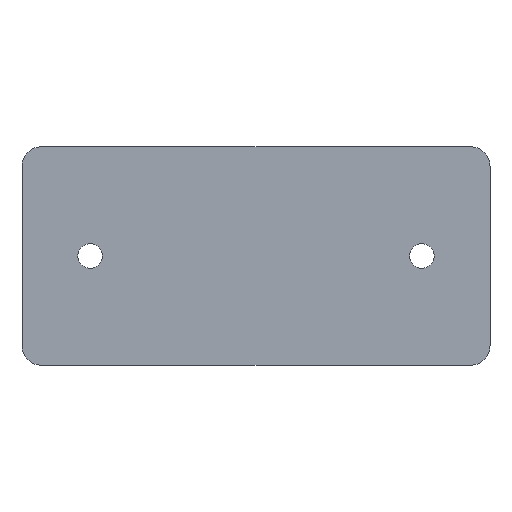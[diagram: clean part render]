
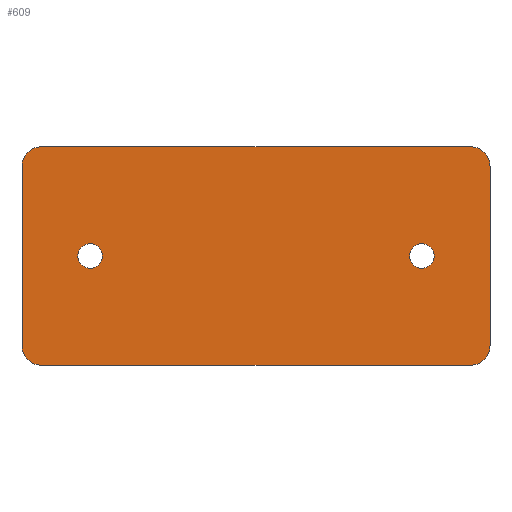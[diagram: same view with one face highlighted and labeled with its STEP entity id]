
A CAD part, left-side view. The second image highlights one B-rep face of the part: STEP entity #609.
In plain terms, the highlighted planar face has unit normal (-1, 0, 0).
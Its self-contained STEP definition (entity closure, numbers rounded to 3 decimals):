
#15=FACE_BOUND('',#76,.T.);
#16=FACE_BOUND('',#77,.T.);
#20=PLANE('',#662);
#42=FACE_OUTER_BOUND('',#75,.T.);
#75=EDGE_LOOP('',(#424,#425,#426,#427,#428,#429,#430,#431));
#76=EDGE_LOOP('',(#432));
#77=EDGE_LOOP('',(#433));
#114=LINE('',#924,#176);
#115=LINE('',#928,#177);
#116=LINE('',#932,#178);
#117=LINE('',#935,#179);
#176=VECTOR('',#740,10.);
#177=VECTOR('',#743,10.);
#178=VECTOR('',#746,10.);
#179=VECTOR('',#749,10.);
#235=CIRCLE('',#655,10.);
#237=CIRCLE('',#658,10.);
#239=CIRCLE('',#661,16.);
#240=CIRCLE('',#663,16.);
#241=CIRCLE('',#664,16.);
#242=CIRCLE('',#665,16.);
#263=VERTEX_POINT('',#904);
#265=VERTEX_POINT('',#910);
#268=VERTEX_POINT('',#917);
#269=VERTEX_POINT('',#919);
#270=VERTEX_POINT('',#923);
#271=VERTEX_POINT('',#925);
#272=VERTEX_POINT('',#927);
#273=VERTEX_POINT('',#929);
#274=VERTEX_POINT('',#931);
#275=VERTEX_POINT('',#933);
#324=EDGE_CURVE('',#263,#263,#235,.T.);
#327=EDGE_CURVE('',#265,#265,#237,.T.);
#330=EDGE_CURVE('',#268,#269,#239,.T.);
#332=EDGE_CURVE('',#268,#270,#114,.T.);
#333=EDGE_CURVE('',#271,#270,#240,.T.);
#334=EDGE_CURVE('',#271,#272,#115,.T.);
#335=EDGE_CURVE('',#273,#272,#241,.T.);
#336=EDGE_CURVE('',#273,#274,#116,.T.);
#337=EDGE_CURVE('',#275,#274,#242,.T.);
#338=EDGE_CURVE('',#275,#269,#117,.T.);
#424=ORIENTED_EDGE('',*,*,#330,.F.);
#425=ORIENTED_EDGE('',*,*,#332,.T.);
#426=ORIENTED_EDGE('',*,*,#333,.F.);
#427=ORIENTED_EDGE('',*,*,#334,.T.);
#428=ORIENTED_EDGE('',*,*,#335,.F.);
#429=ORIENTED_EDGE('',*,*,#336,.T.);
#430=ORIENTED_EDGE('',*,*,#337,.F.);
#431=ORIENTED_EDGE('',*,*,#338,.T.);
#432=ORIENTED_EDGE('',*,*,#324,.T.);
#433=ORIENTED_EDGE('',*,*,#327,.T.);
#609=ADVANCED_FACE('',(#42,#15,#16),#20,.T.);
#655=AXIS2_PLACEMENT_3D('',#906,#721,#722);
#658=AXIS2_PLACEMENT_3D('',#912,#728,#729);
#661=AXIS2_PLACEMENT_3D('',#920,#735,#736);
#662=AXIS2_PLACEMENT_3D('',#922,#738,#739);
#663=AXIS2_PLACEMENT_3D('',#926,#741,#742);
#664=AXIS2_PLACEMENT_3D('',#930,#744,#745);
#665=AXIS2_PLACEMENT_3D('',#934,#747,#748);
#721=DIRECTION('center_axis',(1.,0.,0.));
#722=DIRECTION('ref_axis',(0.,1.,0.));
#728=DIRECTION('center_axis',(1.,0.,0.));
#729=DIRECTION('ref_axis',(0.,1.,0.));
#735=DIRECTION('center_axis',(1.,0.,0.));
#736=DIRECTION('ref_axis',(0.,0.707,-0.707));
#738=DIRECTION('center_axis',(-1.,0.,0.));
#739=DIRECTION('ref_axis',(0.,0.,1.));
#740=DIRECTION('',(0.,-1.,0.));
#741=DIRECTION('center_axis',(1.,0.,0.));
#742=DIRECTION('ref_axis',(0.,-0.707,-0.707));
#743=DIRECTION('',(0.,0.,1.));
#744=DIRECTION('center_axis',(1.,0.,0.));
#745=DIRECTION('ref_axis',(0.,-0.707,0.707));
#746=DIRECTION('',(0.,1.,0.));
#747=DIRECTION('center_axis',(1.,0.,0.));
#748=DIRECTION('ref_axis',(0.,0.707,0.707));
#749=DIRECTION('',(0.,0.,-1.));
#904=CARTESIAN_POINT('',(-31.75,285.,61.5));
#906=CARTESIAN_POINT('Origin',(-31.75,295.,61.5));
#910=CARTESIAN_POINT('',(-31.75,15.,61.5));
#912=CARTESIAN_POINT('Origin',(-31.75,25.,61.5));
#917=CARTESIAN_POINT('',(-31.75,334.5,-27.4));
#919=CARTESIAN_POINT('',(-31.75,350.5,-11.4));
#920=CARTESIAN_POINT('Origin',(-31.75,334.5,-11.4));
#922=CARTESIAN_POINT('Origin',(-31.75,160.,61.5));
#923=CARTESIAN_POINT('',(-31.75,-14.5,-27.4));
#924=CARTESIAN_POINT('',(-31.75,-30.5,-27.4));
#925=CARTESIAN_POINT('',(-31.75,-30.5,-11.4));
#926=CARTESIAN_POINT('Origin',(-31.75,-14.5,-11.4));
#927=CARTESIAN_POINT('',(-31.75,-30.5,134.4));
#928=CARTESIAN_POINT('',(-31.75,-30.5,150.4));
#929=CARTESIAN_POINT('',(-31.75,-14.5,150.4));
#930=CARTESIAN_POINT('Origin',(-31.75,-14.5,134.4));
#931=CARTESIAN_POINT('',(-31.75,334.5,150.4));
#932=CARTESIAN_POINT('',(-31.75,350.5,150.4));
#933=CARTESIAN_POINT('',(-31.75,350.5,134.4));
#934=CARTESIAN_POINT('Origin',(-31.75,334.5,134.4));
#935=CARTESIAN_POINT('',(-31.75,350.5,-27.4));
